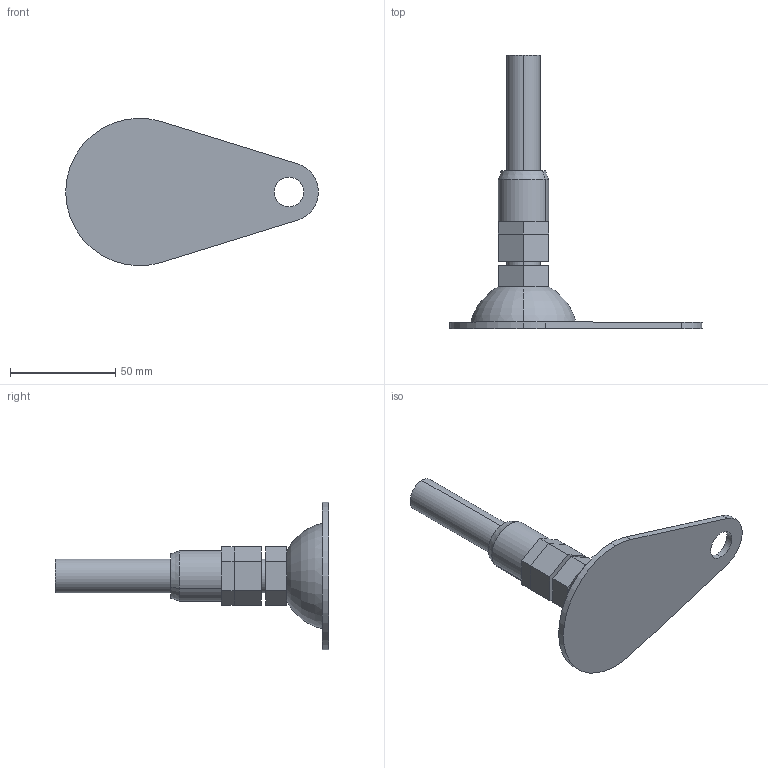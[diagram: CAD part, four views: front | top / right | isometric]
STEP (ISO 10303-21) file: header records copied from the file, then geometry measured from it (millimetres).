
FILE_DESCRIPTION (( 'STEP AP214' ), '1' );
FILE_NAME ('JB-404AP.step', '2024-02-15T05:11:20', ( 'catia' ), ( 'HP Inc.' ), 'SwSTEP 2.0', 'SolidWorks 2021', '' );
FILE_SCHEMA (( 'AUTOMOTIVE_DESIGN' ));
Length unit declared in the file: millimetre
Products named in the file (4): JB-404AP; JB-406; JB-404AP_轡寶M16
Assembly tree (3 placements, depth 2):
  JB-404AP
    JB-404AP
    JB-406
    JB-404AP_轡寶M16
Bounding box: 119.95 x 130 x 70 mm (x, y, z)
Volume: 77744.8 mm3; surface area: 26326.3 mm2
Topology: 3 solids, 3 shells, 58 faces, 136 edges, 86 vertices
Faces by surface type: plane 40, cylinder 14, torus 2, cone 2
Entity records: 1822 total; most frequent: DIRECTION 312, CARTESIAN_POINT 286, ORIENTED_EDGE 272, EDGE_CURVE 136, AXIS2_PLACEMENT_3D 112, VECTOR 88, LINE 88, VERTEX_POINT 86
